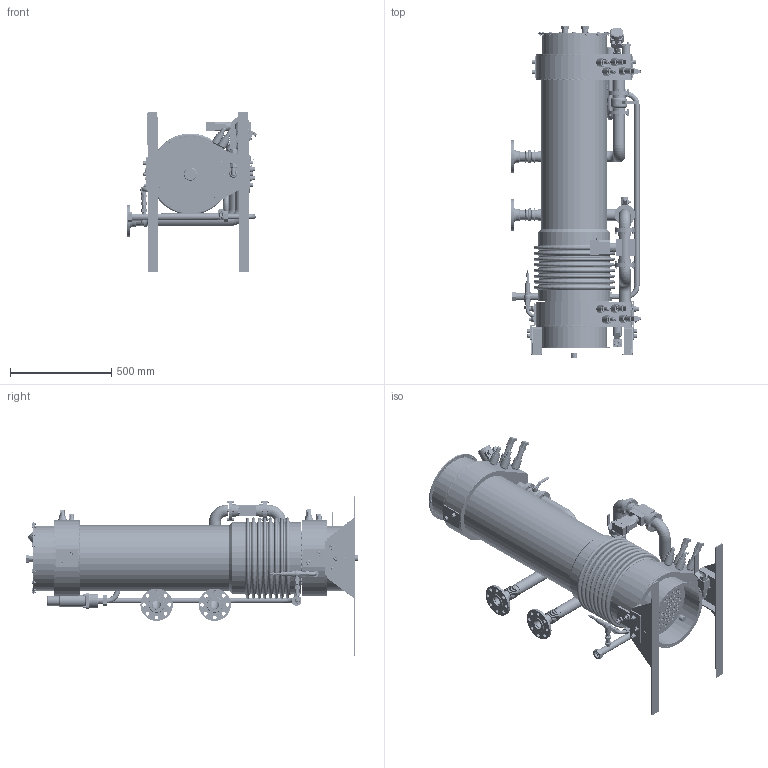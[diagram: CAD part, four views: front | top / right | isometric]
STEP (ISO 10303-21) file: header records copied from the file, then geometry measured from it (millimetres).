
FILE_DESCRIPTION (( 'STEP AP214' ), '1' );
FILE_NAME ('ÐÁÌÂ_1_áåç_øêàôà.STEP', '2025-08-06T16:52:48', ( '' ), ( '' ), 'SwSTEP 2.0', 'SolidWorks 2024', '' );
FILE_SCHEMA (( 'AUTOMOTIVE_DESIGN' ));
Length unit declared in the file: millimetre
Products named in the file (61): 94х50; пепка1618; plain washer normal grade a_iso_Washer ISO 7089 - 6; Гофра ДУ50-1; ниппель; термодатчикРТ100; 001.114 ЗЕМЛЯ БОНКА; Клапан предохр Ду 20 Рр 10 - а; 117х50; слив; гойке; предклапан; L-70; паро; Воздухотв valtec 3-4 - а; 000.шпинька; Дачт потока MRS; socket button head screw_iso_ISO 7380 - M6 x 16 - 16N; 444444пду-Дачт давления MRS-PD100 - а; 678678678; 371х50; д32; кран90; крышка; 000-00рметр; 000.бомт; 114х50; 150х88; hex nut style 2 gradeab_iso_ISO - 4033 - M6 - W - N; пк; 16-16; д33; атебобуз; пкк; ЛСПТ.434365.002.15СБ Корпус блока резисторов; 87х50; 20х25; Гайка накидн 1 14 накидн - а- дек-1_1"; шланг  клап тр пров - а- дек-1_гофрир<Как обработанный>; 10х50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
Assembly tree (141 placements, depth 4):
  РБМВ_1_без_шкафа
    001.114 ЗЕМЛЯ БОНКА
    ЛСПТ.434365.002.50.1СБ Корпус блока резисторов с гидравлическим контуром
      ЛСПТ.434365.002.15СБ Корпус блока резисторов
      Сильфонный компенсатор D325
      L-70  x2
      50х57х90  x6
      фланец  Ду50  x8
      кран шаровый 1.5 ш
      150х88
      114х50
      371х50
      341х50
      Гофра ДУ50-1  x2
      Фланец Ду 50 вор-сент-01_50  отвод  x2
      слив
      10х50
      ПНДР.Муфта резьб ду20-сент_ниппель  x9
      444444пду-Дачт давления MRS-PD100 - а  x4
      термодатчикРТ100  x4
      Воздухотв valtec 3-4 - а
      Клапан предохр Ду 20 Рр 10 - а
      пк  x3
      паро
      пкк
      700000000000000
      Гайка накидн 1 14 накидн - а- дек-1_1"  x4
      шланг  клап тр пров - а- дек-1_гофрир<Как обработанный>
      130х20
      20х25
      предклапан
        клямпенг
        16-16  x2
        гойке  x4
        пепка1618
        атебобуз  x2
        рпрпрпрпрпрпрпрпрпрпрпрпрпрпрпвов
      Дачт потока MRS
      ниппель
      датчик-реле уровня РОС-121-1
      117х50
      000.бомт  x24
        000.шпинька
        plain washer normal grade a_iso_Washer ISO 7089 - 6
        hex nut style 2 gradeab_iso_ISO - 4033 - M6 - W - N
      000-00рметр
      кран90
        кран шаровый 1.5 ш ручка 90
        кран шаровый 1.5 ш корпус 90
      87х50
      94х50
      10х57  x2
      крышка
      болтовая сборка 2  x16
        socket button head screw_iso_ISO 7380 - M6 x 16 - 16N
        curved spring lock washer_din_Spring washer DIN 128 - A6
      втулка 16-22  x2
        д32
        д33
        678678678
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Bounding box: 644.71 x 1638.14 x 791.84 mm (x, y, z)
Volume: 36165553 mm3; surface area: 22096772.4 mm2
Topology: 459 solids, 459 shells, 12784 faces, 32130 edges, 20532 vertices
Faces by surface type: cylinder 7425, plane 3275, cone 1035, bspline 531, torus 486, sphere 32
Entity records: 301034 total; most frequent: CARTESIAN_POINT 84034, DIRECTION 46193, ORIENTED_EDGE 42374, EDGE_CURVE 21187, AXIS2_PLACEMENT_3D 18870, VERTEX_POINT 13776, EDGE_LOOP 12343, CIRCLE 10916
